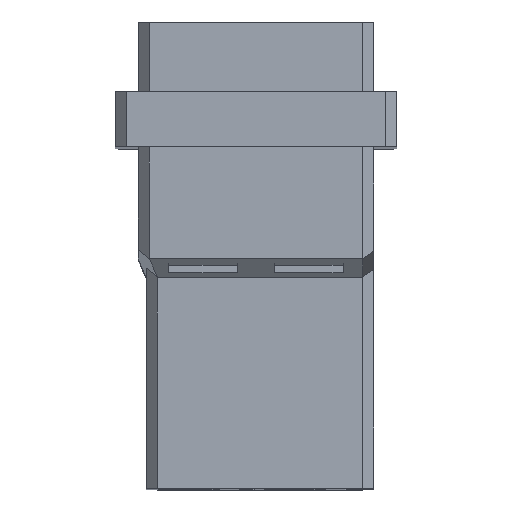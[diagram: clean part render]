
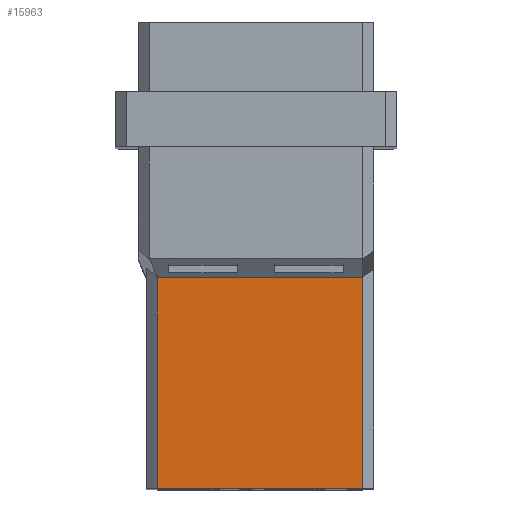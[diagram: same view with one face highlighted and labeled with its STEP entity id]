
A CAD part, top view. The second image highlights one B-rep face of the part: STEP entity #15963.
In plain terms, the highlighted planar face has unit normal (0, 0, 1).
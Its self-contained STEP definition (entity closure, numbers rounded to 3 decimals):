
#973 = VERTEX_POINT ( 'NONE', #5114 ) ;
#993 = CARTESIAN_POINT ( 'NONE',  ( 7.212, -1.717, 8.58 ) ) ;
#1045 = DIRECTION ( 'NONE',  ( 0., 0., -1. ) ) ;
#1386 = CARTESIAN_POINT ( 'NONE',  ( -7.579, -1.717, 8.58 ) ) ;
#1930 = ORIENTED_EDGE ( 'NONE', *, *, #2626, .T. ) ;
#2362 = LINE ( 'NONE', #23245, #22866 ) ;
#2626 = EDGE_CURVE ( 'NONE', #6579, #3013, #7541, .T. ) ;
#2775 = ORIENTED_EDGE ( 'NONE', *, *, #18040, .T. ) ;
#2817 = EDGE_CURVE ( 'NONE', #11532, #973, #2362, .T. ) ;
#3013 = VERTEX_POINT ( 'NONE', #3566 ) ;
#3289 = ORIENTED_EDGE ( 'NONE', *, *, #18014, .F. ) ;
#3566 = CARTESIAN_POINT ( 'NONE',  ( 7.212, -16.937, 8.58 ) ) ;
#3735 = LINE ( 'NONE', #18525, #16432 ) ;
#3849 = EDGE_LOOP ( 'NONE', ( #1930, #5882, #3289, #5710, #2775 ) ) ;
#4625 = EDGE_CURVE ( 'NONE', #3013, #18896, #21849, .T. ) ;
#5114 = CARTESIAN_POINT ( 'NONE',  ( -7.588, -1.708, 8.58 ) ) ;
#5297 = AXIS2_PLACEMENT_3D ( 'NONE', #25329, #1045, #23828 ) ;
#5513 = DIRECTION ( 'NONE',  ( 1., 0., 0. ) ) ;
#5710 = ORIENTED_EDGE ( 'NONE', *, *, #2817, .T. ) ;
#5882 = ORIENTED_EDGE ( 'NONE', *, *, #4625, .T. ) ;
#6179 = DIRECTION ( 'NONE',  ( 1., 0., 0. ) ) ;
#6579 = VERTEX_POINT ( 'NONE', #26449 ) ;
#7172 = VECTOR ( 'NONE', #22397, 1000. ) ;
#7541 = LINE ( 'NONE', #9721, #12862 ) ;
#9721 = CARTESIAN_POINT ( 'NONE',  ( -10.633, -16.937, 8.58 ) ) ;
#10771 = DIRECTION ( 'NONE',  ( -0.708, 0.707, 0. ) ) ;
#11532 = VERTEX_POINT ( 'NONE', #1386 ) ;
#12560 = LINE ( 'NONE', #20820, #22041 ) ;
#12862 = VECTOR ( 'NONE', #5513, 1000. ) ;
#15963 = ADVANCED_FACE ( 'NONE', ( #21657 ), #19629, .F. ) ;
#16160 = CARTESIAN_POINT ( 'NONE',  ( 7.212, -1.717, 8.58 ) ) ;
#16432 = VECTOR ( 'NONE', #6179, 1000. ) ;
#18014 = EDGE_CURVE ( 'NONE', #11532, #18896, #3735, .T. ) ;
#18040 = EDGE_CURVE ( 'NONE', #973, #6579, #12560, .T. ) ;
#18525 = CARTESIAN_POINT ( 'NONE',  ( -10.633, -1.717, 8.58 ) ) ;
#18896 = VERTEX_POINT ( 'NONE', #993 ) ;
#19629 = PLANE ( 'NONE',  #5297 ) ;
#20820 = CARTESIAN_POINT ( 'NONE',  ( -7.588, -1.717, 8.58 ) ) ;
#21657 = FACE_OUTER_BOUND ( 'NONE', #3849, .T. ) ;
#21849 = LINE ( 'NONE', #16160, #7172 ) ;
#22041 = VECTOR ( 'NONE', #24906, 1000. ) ;
#22397 = DIRECTION ( 'NONE',  ( 0., 1., 0. ) ) ;
#22866 = VECTOR ( 'NONE', #10771, 1000. ) ;
#23245 = CARTESIAN_POINT ( 'NONE',  ( -9.108, -0.19, 8.58 ) ) ;
#23828 = DIRECTION ( 'NONE',  ( 0., -1., 0. ) ) ;
#24906 = DIRECTION ( 'NONE',  ( 0., -1., 0. ) ) ;
#25329 = CARTESIAN_POINT ( 'NONE',  ( -10.633, -1.717, 8.58 ) ) ;
#26449 = CARTESIAN_POINT ( 'NONE',  ( -7.588, -16.937, 8.58 ) ) ;
